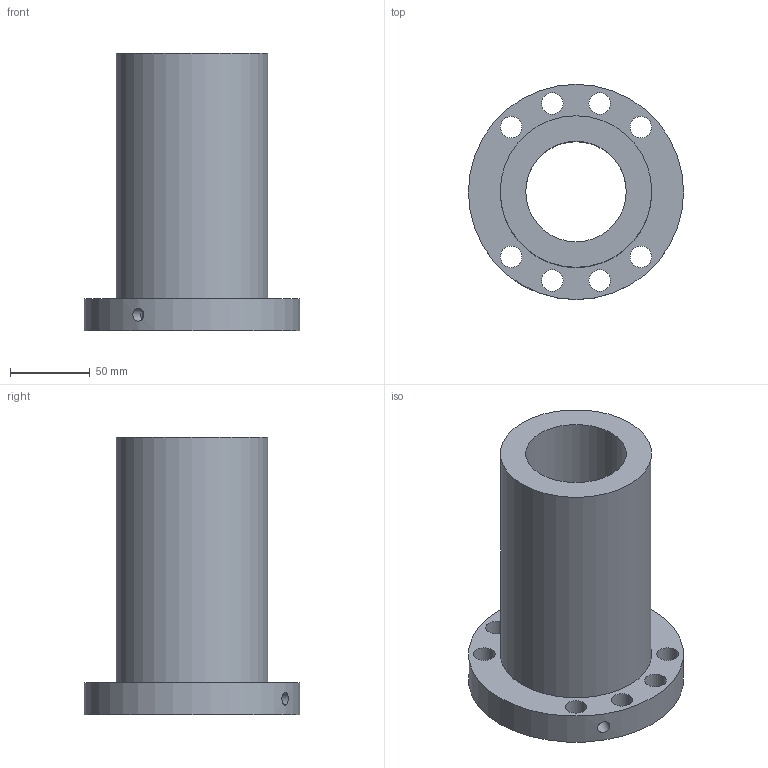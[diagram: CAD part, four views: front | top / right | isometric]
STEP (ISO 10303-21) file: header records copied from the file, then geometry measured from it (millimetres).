
FILE_DESCRIPTION(/* description */ (''),/* implementation_level */ '2;1');
FILE_NAME(/* name */ '63-10K5_635',/* time_stamp */ '2007-10-15T12:53:53+08:00',/* author */ (''),/* organization */ (''),/* preprocessor_version */ 'ST-DEVELOPER v11',/* originating_system */ 'UGS - NX 5.0',/* authorisation */ '');
FILE_SCHEMA (('CONFIG_CONTROL_DESIGN'));
Length unit declared in the file: millimetre
Products named in the file (1): 63-10K5_635
Bounding box: 135 x 135 x 174 mm (x, y, z)
Volume: 811323.8 mm3; surface area: 116455.6 mm2
Topology: 1 solids, 1 shells, 17 faces, 40 edges, 27 vertices
Faces by surface type: cylinder 13, plane 4
Full cylindrical faces by diameter (mm): 6 x1, 8 x1, 13.5 x8, 63 x1, 95 x1, 135 x1
Entity records: 668 total; most frequent: CARTESIAN_POINT 184, DIRECTION 84, FACE_BOUND 52, EDGE_LOOP 52, ORIENTED_EDGE 52, AXIS2_PLACEMENT_3D 42, VERTEX_POINT 26, EDGE_CURVE 26
